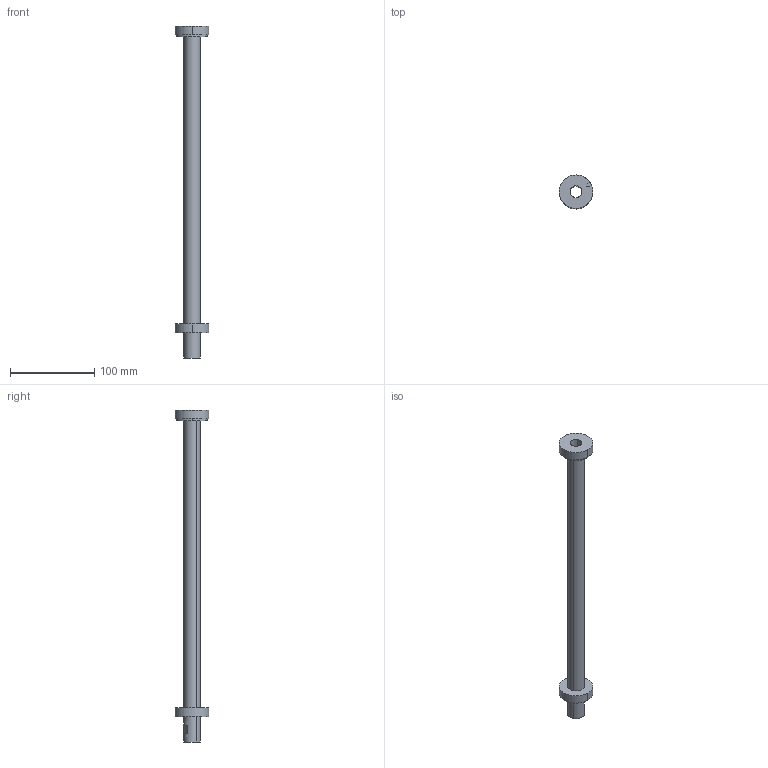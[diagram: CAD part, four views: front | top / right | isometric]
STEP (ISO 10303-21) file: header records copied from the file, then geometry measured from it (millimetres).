
FILE_DESCRIPTION (( 'STEP AP214' ), '1' );
FILE_NAME ('IRB920T_6kg-450-180-STD_OmniCore_rev00_LINK3_CAD.step', '2021-08-23T03:24:12', ( '' ), ( '' ), 'SwSTEP 2.0', 'SolidWorks 2018', '' );
FILE_SCHEMA (( 'AUTOMOTIVE_DESIGN' ));
Length unit declared in the file: millimetre
Products named in the file (1): IRB920T_6kg-450-180-STD_OmniCore_rev00_LINK3_CAD
Bounding box: 40 x 40 x 395 mm (x, y, z)
Volume: 84008.1 mm3; surface area: 48353.3 mm2
Topology: 1 solids, 2 shells, 43 faces, 90 edges, 59 vertices
Faces by surface type: cylinder 24, plane 15, cone 4
Entity records: 1376 total; most frequent: CARTESIAN_POINT 379, DIRECTION 220, ORIENTED_EDGE 176, AXIS2_PLACEMENT_3D 94, EDGE_CURVE 88, VERTEX_POINT 59, EDGE_LOOP 57, CIRCLE 50
